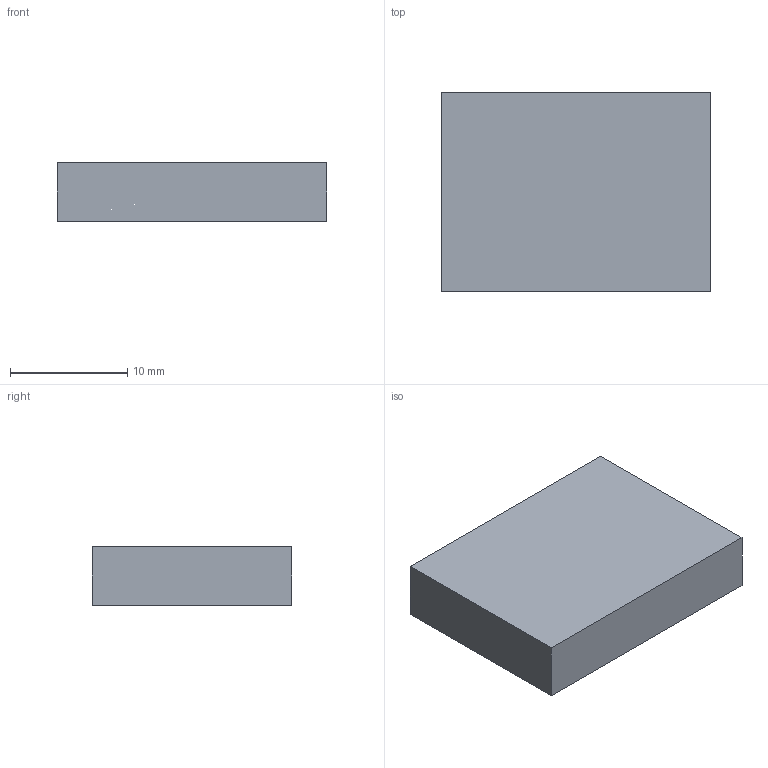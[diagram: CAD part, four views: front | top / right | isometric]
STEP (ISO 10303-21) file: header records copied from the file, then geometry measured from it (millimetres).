
FILE_DESCRIPTION(('Open CASCADE Model'),'2;1');
FILE_NAME('Open CASCADE Shape Model','2026-10-25T05:18:02',('Author'),( 'Open CASCADE'),'Open CASCADE STEP processor 7.9','Open CASCADE 7.9' ,'Unknown');
FILE_SCHEMA(('AUTOMOTIVE_DESIGN { 1 0 10303 214 1 1 1 1 }'));
Length unit declared in the file: millimetre
Products named in the file (1): Open CASCADE STEP translator 7.9 124
Bounding box: 23 x 17 x 5 mm (x, y, z)
Volume: 1955 mm3; surface area: 1182 mm2
Topology: 1 solids, 1 shells, 6 faces, 12 edges, 8 vertices
Faces by surface type: plane 6
Entity records: 322 total; most frequent: CARTESIAN_POINT 51, DIRECTION 50, LINE 36, VECTOR 36, ORIENTED_EDGE 24, PCURVE 24, DEFINITIONAL_REPRESENTATION 24, EDGE_CURVE 12
